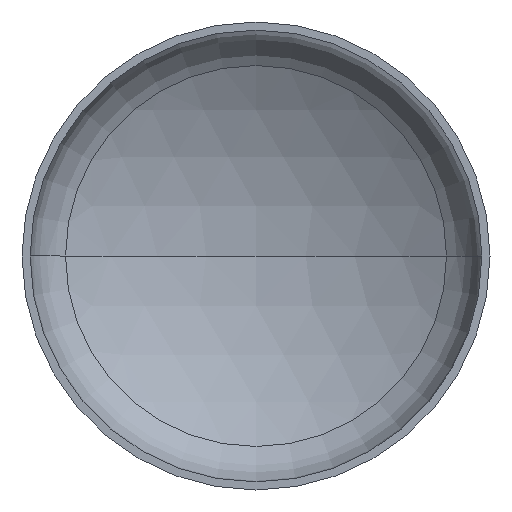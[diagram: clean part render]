
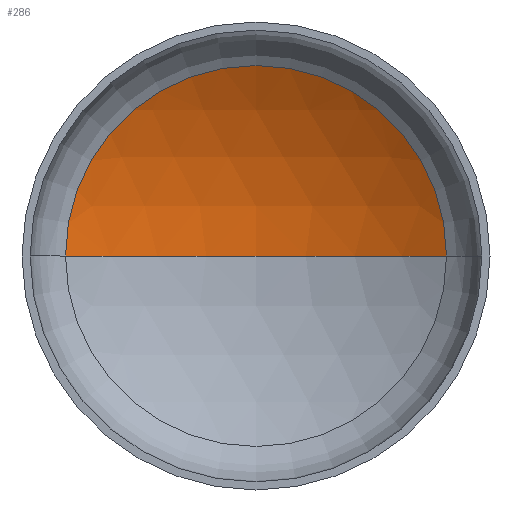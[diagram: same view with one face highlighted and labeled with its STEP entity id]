
A CAD part, front view. The second image highlights one B-rep face of the part: STEP entity #286.
In plain terms, the highlighted spherical face has radius 3040 mm.
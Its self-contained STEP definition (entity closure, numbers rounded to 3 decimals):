
#4 = ORIENTED_EDGE ( 'NONE', *, *, #390, .T. ) ;
#5 = AXIS2_PLACEMENT_3D ( 'NONE', #172, #341, #34 ) ;
#20 = EDGE_LOOP ( 'NONE', ( #143, #4, #119 ) ) ;
#21 = AXIS2_PLACEMENT_3D ( 'NONE', #245, #181, #334 ) ;
#34 = DIRECTION ( 'NONE',  ( 1., 0., 0. ) ) ;
#39 = AXIS2_PLACEMENT_3D ( 'NONE', #251, #210, #274 ) ;
#45 = VERTEX_POINT ( 'NONE', #358 ) ;
#100 = VERTEX_POINT ( 'NONE', #332 ) ;
#104 = CIRCLE ( 'NONE', #336, 3040. ) ;
#111 = VERTEX_POINT ( 'NONE', #366 ) ;
#119 = ORIENTED_EDGE ( 'NONE', *, *, #329, .T. ) ;
#142 = CARTESIAN_POINT ( 'NONE',  ( 0., -1993.534, 0. ) ) ;
#143 = ORIENTED_EDGE ( 'NONE', *, *, #385, .F. ) ;
#164 = FACE_OUTER_BOUND ( 'NONE', #20, .T. ) ;
#170 = DIRECTION ( 'NONE',  ( -1., 0., 0. ) ) ;
#172 = CARTESIAN_POINT ( 'NONE',  ( 0., -1993.534, 0. ) ) ;
#179 = SPHERICAL_SURFACE ( 'NONE', #39, 3040. ) ;
#181 = DIRECTION ( 'NONE',  ( 0., -1., 0. ) ) ;
#210 = DIRECTION ( 'NONE',  ( 0., 0., -1. ) ) ;
#212 = CIRCLE ( 'NONE', #21, 1546.623 ) ;
#245 = CARTESIAN_POINT ( 'NONE',  ( 0., 623.632, 0. ) ) ;
#251 = CARTESIAN_POINT ( 'NONE',  ( 0., -1993.534, 0. ) ) ;
#274 = DIRECTION ( 'NONE',  ( -1., 0., 0. ) ) ;
#286 = ADVANCED_FACE ( 'NONE', ( #164 ), #179, .F. ) ;
#314 = DIRECTION ( 'NONE',  ( 0., 0., -1. ) ) ;
#329 = EDGE_CURVE ( 'NONE', #100, #111, #212, .T. ) ;
#332 = CARTESIAN_POINT ( 'NONE',  ( 1546.623, 623.632, 0. ) ) ;
#334 = DIRECTION ( 'NONE',  ( 1., 0., 0. ) ) ;
#336 = AXIS2_PLACEMENT_3D ( 'NONE', #142, #314, #170 ) ;
#341 = DIRECTION ( 'NONE',  ( 0., 0., 1. ) ) ;
#358 = CARTESIAN_POINT ( 'NONE',  ( 0., 1046.466, 0. ) ) ;
#366 = CARTESIAN_POINT ( 'NONE',  ( -1546.623, 623.632, 0. ) ) ;
#373 = CIRCLE ( 'NONE', #5, 3040. ) ;
#385 = EDGE_CURVE ( 'NONE', #45, #111, #373, .T. ) ;
#390 = EDGE_CURVE ( 'NONE', #45, #100, #104, .T. ) ;
